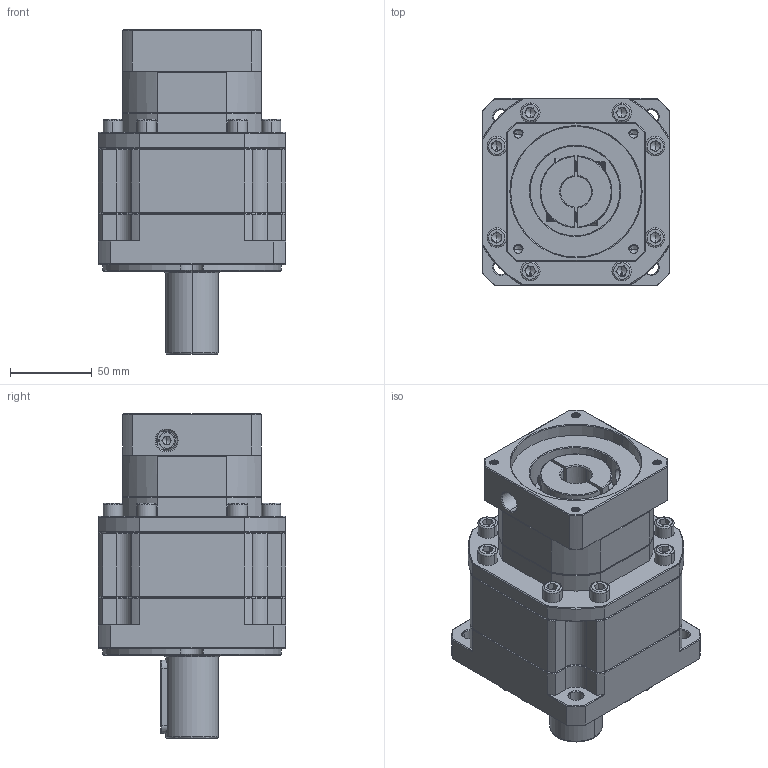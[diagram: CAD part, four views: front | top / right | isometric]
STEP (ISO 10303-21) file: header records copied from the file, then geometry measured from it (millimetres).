
FILE_DESCRIPTION (( 'STEP AP214' ), '1' );
FILE_NAME ('ZB115A-D32-L2-19-80-100-M6.step', '2023-03-03T09:55:18', ( '' ), ( 'Microsoft' ), 'SwSTEP 2.0', 'SolidWorks 2016', '' );
FILE_SCHEMA (( 'AUTOMOTIVE_DESIGN' ));
Length unit declared in the file: millimetre
Products named in the file (1): ZB115A-D32-L2-19-80-100-M6
Bounding box: 115 x 115 x 199 mm (x, y, z)
Volume: 1366098.2 mm3; surface area: 134174.2 mm2
Topology: 5 solids, 6 shells, 2135 faces, 5504 edges, 3466 vertices
Faces by surface type: plane 1010, cylinder 425, cone 356, bspline 329, torus 15
Entity records: 112597 total; most frequent: CARTESIAN_POINT 40106, ORIENTED_EDGE 10932, DIRECTION 8961, EDGE_CURVE 5466, VERTEX_POINT 3466, VECTOR 3417, LINE 3417, AXIS2_PLACEMENT_3D 2772
